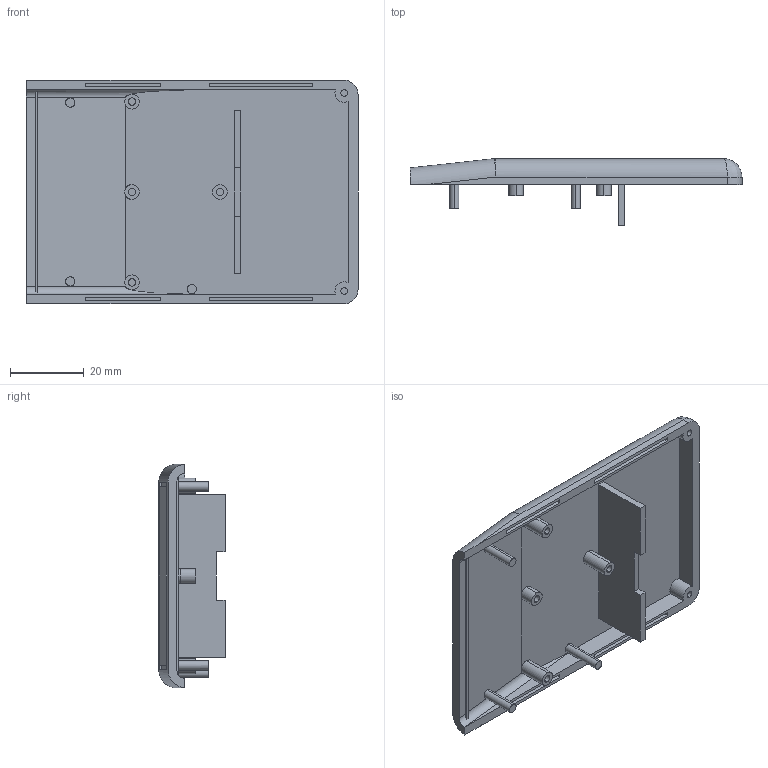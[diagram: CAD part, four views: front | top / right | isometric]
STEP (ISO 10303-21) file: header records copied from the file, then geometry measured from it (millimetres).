
FILE_DESCRIPTION (( 'STEP AP214' ), '1' );
FILE_NAME ('Tapa PP64E.STEP', '2017-09-14T07:40:49', ( 'aaa' ), ( '' ), 'SwSTEP 2.0', 'SolidWorks 2013', '' );
FILE_SCHEMA (( 'AUTOMOTIVE_DESIGN' ));
Length unit declared in the file: millimetre
Products named in the file (1): Tapa PP64E
Bounding box: 90 x 18 x 60.7 mm (x, y, z)
Volume: 14650.6 mm3; surface area: 16147.3 mm2
Topology: 1 solids, 1 shells, 121 faces, 293 edges, 188 vertices
Faces by surface type: plane 78, cylinder 39, bspline 4
Entity records: 3644 total; most frequent: CARTESIAN_POINT 838, ORIENTED_EDGE 578, DIRECTION 559, EDGE_CURVE 289, LINE 197, VECTOR 197, VERTEX_POINT 188, AXIS2_PLACEMENT_3D 181
